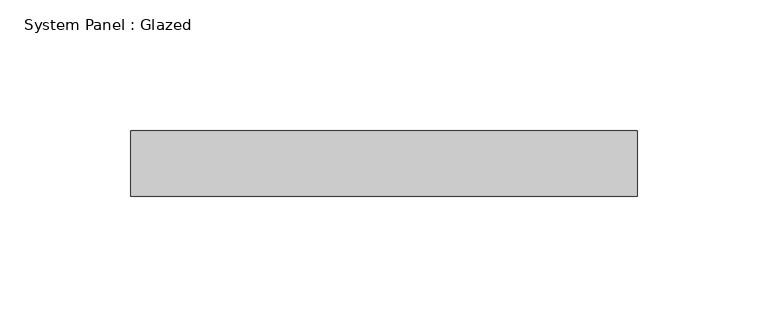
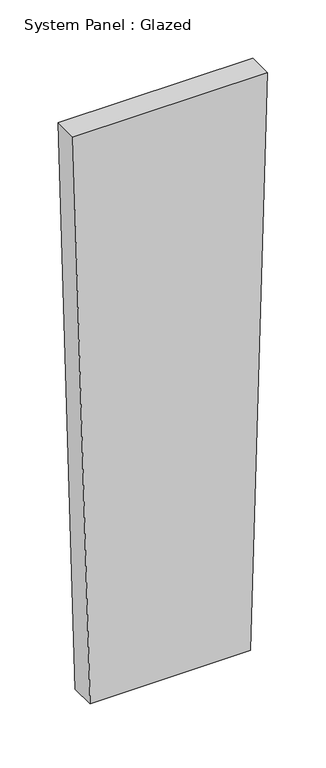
"""IFC4 building model written with IfcOpenShell, lengths in millimetres: plate geometry, System Panel : Glazed."""

from ifc_helpers import new_model, si_unit, frame, origin, place, context, project, spatial, polyline, outline, extrude, source, transform, mapped, element, save


def system_panel_glazed_d0cfcdc2(model_context):
    return source(origin(), model_context, "Body", "SweptSolid", [
        extrude(outline(polyline([(0.0, -79.5152554), (0.0, 79.5152554), (599.7571519, 96.5844894), (599.7571519, -96.5844894), (0.0, -79.5152554)])), frame((0.0, 24.5, 0.0), z_axis=(0.0, 1.0, 0.0), x_axis=(0.0, 0.0, 1.0)), (0.0, 0.0, 1.0), 25.0),
    ])


if __name__ == "__main__":
    model = new_model("IFC4")
    model_context = context("Model", 3, world=origin())
    ifc_project = project(units=[si_unit("LENGTHUNIT", "METRE", prefix="MILLI")], contexts=[model_context])
    site = spatial("IfcSite", under=ifc_project)
    building = spatial("IfcBuilding", under=site)
    placement = place(None, origin())
    system_panel_glazed_shape = system_panel_glazed_d0cfcdc2(model_context)
    element("IfcPlate", 1, ObjectType="System Panel : Glazed", at=placement, inside=building, context=model_context, shape_type="MappedRepresentation", body=[
        mapped(system_panel_glazed_shape, transform((0.0, 0.0, 0.0), x_axis=(1.0, 0.0, 0.0), y_axis=(0.0, 1.0, 0.0), z_axis=(0.0, 0.0, 1.0))),
    ])
    save(model, "model.ifc")
